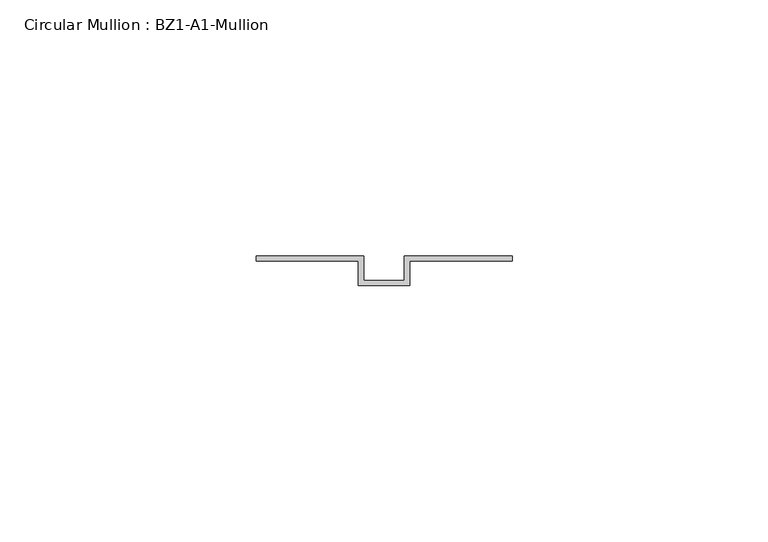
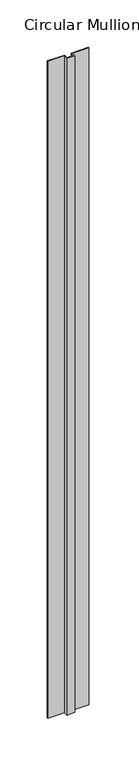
"""IFC4 building model written with IfcOpenShell, lengths in millimetres: member geometry, Circular Mullion : BZ1-A1-Mullion."""

from ifc_helpers import new_model, si_unit, frame, origin, place, context, project, spatial, polyline, outline, extrude, source, transform, mapped, element, save


def circular_mullion_bz1_a1_mullion_a37bb437(model_context):
    return source(origin(), model_context, "Body", "SweptSolid", [
        extrude(outline(polyline([(-25.0, 11.0), (-4.0, 11.0), (-4.0, 6.2), (4.0, 6.2), (4.0, 11.0), (25.0, 11.0), (25.0, 10.0), (5.0, 10.0), (5.0, 5.2), (-5.0, 5.2), (-5.0, 10.0), (-25.0, 10.0), (-25.0, 11.0)])), frame((0.0, 0.0, -846.436702), z_axis=(0.0, 0.0, 1.0), x_axis=(1.0, 0.0, 0.0)), (0.0, 0.0, 1.0), 846.436702),
    ])


if __name__ == "__main__":
    model = new_model("IFC4")
    model_context = context("Model", 3, world=origin())
    ifc_project = project(units=[si_unit("LENGTHUNIT", "METRE", prefix="MILLI")], contexts=[model_context])
    site = spatial("IfcSite", under=ifc_project)
    building = spatial("IfcBuilding", under=site)
    placement = place(None, origin())
    circular_mullion_bz1_a1_mullion_shape = circular_mullion_bz1_a1_mullion_a37bb437(model_context)
    element("IfcMember", 1, ObjectType="Circular Mullion : BZ1-A1-Mullion", at=placement, inside=building, context=model_context, shape_type="MappedRepresentation", body=[
        mapped(circular_mullion_bz1_a1_mullion_shape, transform((0.0, 0.0, 0.0), x_axis=(1.0, 0.0, 0.0), y_axis=(0.0, 1.0, 0.0), z_axis=(0.0, 0.0, 1.0))),
    ])
    save(model, "model.ifc")
